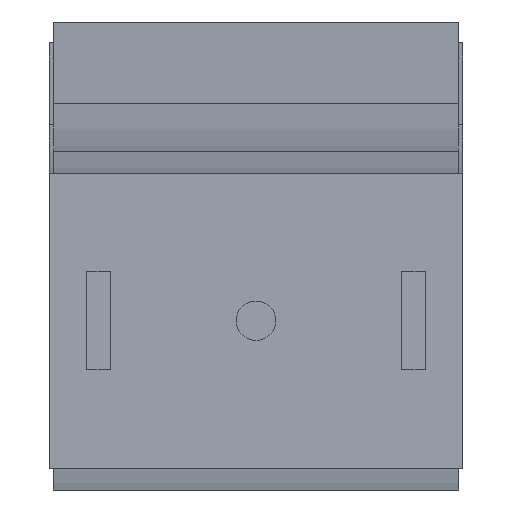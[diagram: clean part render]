
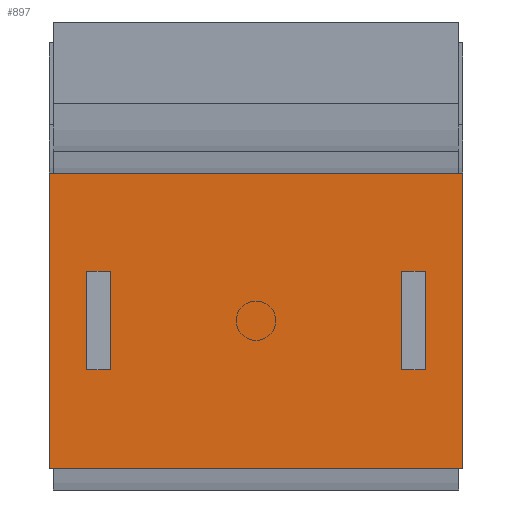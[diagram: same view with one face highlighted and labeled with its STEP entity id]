
A CAD part, left-side view. The second image highlights one B-rep face of the part: STEP entity #897.
In plain terms, the highlighted planar face has unit normal (-1, 0, 0).
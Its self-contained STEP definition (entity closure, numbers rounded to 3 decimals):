
#87=FACE_OUTER_BOUND('',#139,.T.);
#139=EDGE_LOOP('',(#656,#657,#658,#659));
#192=LINE('',#1317,#302);
#196=LINE('',#1323,#306);
#198=LINE('',#1327,#308);
#201=LINE('',#1331,#311);
#302=VECTOR('',#1063,10.);
#306=VECTOR('',#1069,10.);
#308=VECTOR('',#1073,10.);
#311=VECTOR('',#1078,10.);
#414=VERTEX_POINT('',#1315);
#415=VERTEX_POINT('',#1316);
#416=VERTEX_POINT('',#1322);
#417=VERTEX_POINT('',#1326);
#500=EDGE_CURVE('',#414,#415,#192,.T.);
#504=EDGE_CURVE('',#415,#416,#196,.T.);
#506=EDGE_CURVE('',#416,#417,#198,.T.);
#509=EDGE_CURVE('',#417,#414,#201,.T.);
#656=ORIENTED_EDGE('',*,*,#509,.T.);
#657=ORIENTED_EDGE('',*,*,#500,.T.);
#658=ORIENTED_EDGE('',*,*,#504,.T.);
#659=ORIENTED_EDGE('',*,*,#506,.T.);
#851=PLANE('',#977);
#897=ADVANCED_FACE('',(#87),#851,.F.);
#977=AXIS2_PLACEMENT_3D('',#1333,#1081,#1082);
#1063=DIRECTION('',(0.,0.,-1.));
#1069=DIRECTION('',(0.,-1.,0.));
#1073=DIRECTION('',(0.,0.,1.));
#1078=DIRECTION('',(0.,1.,0.));
#1081=DIRECTION('center_axis',(1.,0.,0.));
#1082=DIRECTION('ref_axis',(0.,0.,-1.));
#1315=CARTESIAN_POINT('',(0.,52.5,37.5));
#1316=CARTESIAN_POINT('',(0.,52.5,-37.5));
#1317=CARTESIAN_POINT('',(0.,52.5,37.5));
#1322=CARTESIAN_POINT('',(0.,-52.5,-37.5));
#1323=CARTESIAN_POINT('',(0.,52.5,-37.5));
#1326=CARTESIAN_POINT('',(0.,-52.5,37.5));
#1327=CARTESIAN_POINT('',(0.,-52.5,-37.5));
#1331=CARTESIAN_POINT('',(0.,-52.5,37.5));
#1333=CARTESIAN_POINT('Origin',(0.,0.,0.));
